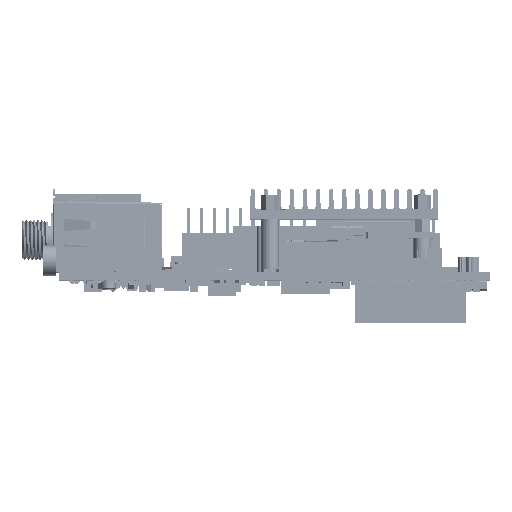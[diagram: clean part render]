
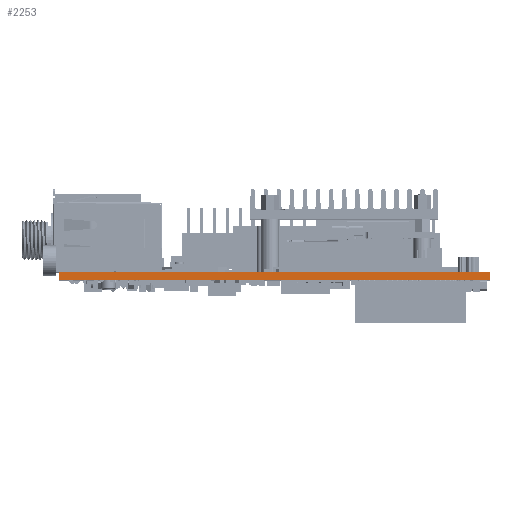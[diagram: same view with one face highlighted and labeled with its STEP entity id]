
A CAD part, top view. The second image highlights one B-rep face of the part: STEP entity #2253.
In plain terms, the highlighted planar face has unit normal (0, 0, 1).
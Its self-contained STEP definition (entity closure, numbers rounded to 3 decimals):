
#49=DIRECTION('',(1.,0.,0.));
#50=VECTOR('',#49,85.);
#51=CARTESIAN_POINT('',(-42.5,0.,62.5));
#52=LINE('',#51,#50);
#628=DIRECTION('',(0.,1.,0.));
#629=VECTOR('',#628,1.6);
#630=CARTESIAN_POINT('',(42.5,0.,62.5));
#631=LINE('',#630,#629);
#635=DIRECTION('',(0.,1.,0.));
#636=VECTOR('',#635,1.6);
#637=CARTESIAN_POINT('',(-42.5,0.,62.5));
#638=LINE('',#637,#636);
#663=DIRECTION('',(1.,0.,0.));
#664=VECTOR('',#663,85.);
#665=CARTESIAN_POINT('',(-42.5,1.6,62.5));
#666=LINE('',#665,#664);
#1691=CARTESIAN_POINT('',(-42.5,0.,62.5));
#1693=VERTEX_POINT('',#1691);
#1694=CARTESIAN_POINT('',(42.5,0.,62.5));
#1695=VERTEX_POINT('',#1694);
#1699=CARTESIAN_POINT('',(-42.5,1.6,62.5));
#1701=VERTEX_POINT('',#1699);
#1702=CARTESIAN_POINT('',(42.5,1.6,62.5));
#1703=VERTEX_POINT('',#1702);
#2241=CARTESIAN_POINT('',(-42.5,0.,62.5));
#2242=DIRECTION('',(0.,0.,1.));
#2243=DIRECTION('',(1.,0.,0.));
#2244=AXIS2_PLACEMENT_3D('',#2241,#2242,#2243);
#2245=PLANE('',#2244);
#2246=ORIENTED_EDGE('',*,*,#1985,.F.);
#2247=ORIENTED_EDGE('',*,*,#2208,.T.);
#2249=ORIENTED_EDGE('',*,*,#2248,.T.);
#2250=ORIENTED_EDGE('',*,*,#2233,.F.);
#2251=EDGE_LOOP('',(#2246,#2247,#2249,#2250));
#2252=FACE_OUTER_BOUND('',#2251,.F.);
#1985=EDGE_CURVE('',#1693,#1695,#52,.T.);
#2208=EDGE_CURVE('',#1693,#1701,#638,.T.);
#2233=EDGE_CURVE('',#1695,#1703,#631,.T.);
#2248=EDGE_CURVE('',#1701,#1703,#666,.T.);
#2253=ADVANCED_FACE('',(#2252),#2245,.T.);
